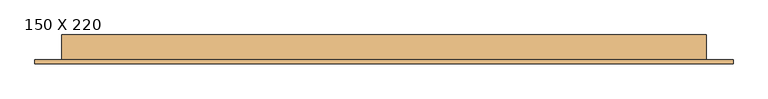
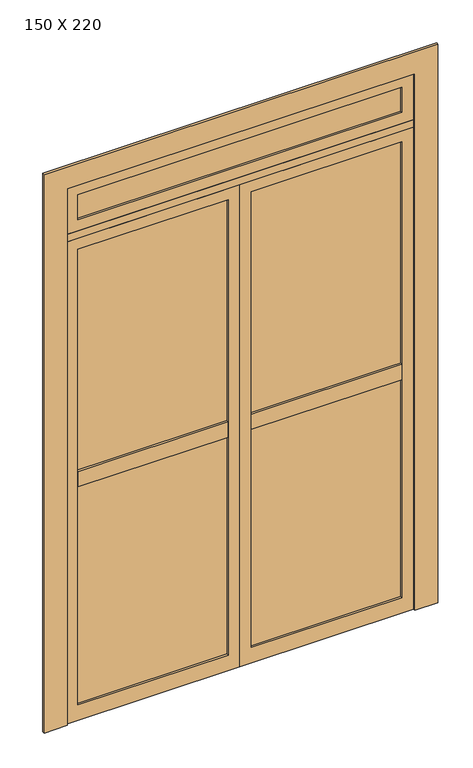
"""IFC4 building model written with IfcOpenShell, lengths in millimetres: door geometry, PORTA DE VIDRO COM ESQUADRIA DE ABRIR - 2 FOLHAS + BANDEIRA FIXA - 1 FOLHA : 150 X 220."""

from ifc_helpers import new_model, si_unit, frame, origin, place, context, project, spatial, polyline, outline, extrude, faceted_brep, source, transform, mapped, element, save


def door_150_x_220_6ddc8072(model_context):
    return source(origin(), model_context, "Body", "SolidModel", [
        extrude(outline(polyline([(730.0, -50.0), (730.0, -75.0), (80.0, -75.0), (80.0, -50.0), (730.0, -50.0)])), frame((0.0, 0.0, 1065.0), z_axis=(0.0, 0.0, 1.0), x_axis=(1.0, 0.0, 0.0)), (0.0, 0.0, 1.0), 70.0),
        extrude(outline(polyline([(80.0, -59.5), (730.0, -59.5), (730.0, -65.5), (80.0, -65.5), (80.0, -59.5)])), frame((0.0, 0.0, 70.0), z_axis=(0.0, 0.0, 1.0), x_axis=(1.0, 0.0, 0.0)), (0.0, 0.0, 1.0), 2080.0),
        extrude(outline(polyline([(2200.0, 30.0), (0.0, 30.0), (0.0, 780.0), (2200.0, 780.0), (2200.0, 30.0)]), holes=[polyline([(2150.0, 80.0), (2150.0, 730.0), (70.0, 730.0), (70.0, 80.0), (2150.0, 80.0)])]), frame((0.0, -75.0, 0.0), z_axis=(0.0, 1.0, 0.0), x_axis=(0.0, 0.0, 1.0)), (0.0, 0.0, 1.0), 25.0),
        extrude(outline(polyline([(730.0, -59.5), (730.0, -65.5), (-670.0, -65.5), (-670.0, -59.5), (730.0, -59.5)])), frame((0.0, 0.0, 2285.0), z_axis=(0.0, 0.0, 1.0), x_axis=(1.0, 0.0, 0.0)), (0.0, 0.0, 1.0), 115.0),
        extrude(outline(polyline([(2450.0, 780.0), (2450.0, -720.0), (2235.0, -720.0), (2235.0, 780.0), (2450.0, 780.0)]), holes=[polyline([(2400.0, 730.0), (2285.0, 730.0), (2285.0, -670.0), (2400.0, -670.0), (2400.0, 730.0)])]), frame((0.0, -75.0, 0.0), z_axis=(0.0, 1.0, 0.0), x_axis=(0.0, 0.0, 1.0)), (0.0, 0.0, 1.0), 25.0),
        extrude(outline(polyline([(-670.0, -50.0), (-20.0, -50.0), (-20.0, -75.0), (-670.0, -75.0), (-670.0, -50.0)])), frame((0.0, 0.0, 1065.0), z_axis=(0.0, 0.0, 1.0), x_axis=(1.0, 0.0, 0.0)), (0.0, 0.0, 1.0), 70.0),
        extrude(outline(polyline([(-20.0, -59.5), (-20.0, -65.5), (-670.0, -65.5), (-670.0, -59.5), (-20.0, -59.5)])), frame((0.0, 0.0, 70.0), z_axis=(0.0, 0.0, 1.0), x_axis=(1.0, 0.0, 0.0)), (0.0, 0.0, 1.0), 2080.0),
        extrude(outline(polyline([(2200.0, 30.0), (2200.0, -720.0), (0.0, -720.0), (0.0, 30.0), (2200.0, 30.0)]), holes=[polyline([(2150.0, -20.0), (70.0, -20.0), (70.0, -670.0), (2150.0, -670.0), (2150.0, -20.0)])]), frame((0.0, -75.0, 0.0), z_axis=(0.0, 1.0, 0.0), x_axis=(0.0, 0.0, 1.0)), (0.0, 0.0, 1.0), 25.0),
        extrude(outline(polyline([(2450.0, -720.0), (2450.0, 780.0), (0.0, 780.0), (0.0, 880.0), (2550.0, 880.0), (2550.0, -820.0), (0.0, -820.0), (0.0, -720.0), (2450.0, -720.0)])), frame((0.0, -85.0, 0.0), z_axis=(0.0, 1.0, 0.0), x_axis=(0.0, 0.0, 1.0)), (0.0, 0.0, 1.0), 10.0),
        faceted_brep([(-755.0, -15.0, 0.0), (-710.0, -15.0, 0.0), (-710.0, -50.0, 0.0), (-720.0, -50.0, 0.0), (-720.0, -75.0, 0.0), (-755.0, -75.0, 0.0), (-755.0, -15.0, 2485.0), (815.0, -15.0, 2485.0), (815.0, -15.0, 0.0), (770.0, -15.0, 0.0), (770.0, -15.0, 2190.0), (-710.0, -15.0, 2190.0), (-720.0, -15.0, 2235.0), (780.0, -15.0, 2235.0), (780.0, -15.0, 2450.0), (-720.0, -15.0, 2450.0), (-710.0, -50.0, 2190.0), (770.0, -50.0, 2190.0), (770.0, -50.0, 0.0), (780.0, -50.0, 0.0), (780.0, -50.0, 2200.0), (-720.0, -50.0, 2200.0), (-720.0, -75.0, 2200.0), (780.0, -75.0, 2200.0), (780.0, -75.0, 0.0), (815.0, -75.0, 0.0), (815.0, -75.0, 2485.0), (-755.0, -75.0, 2485.0), (780.0, -75.0, 2235.0), (-720.0, -75.0, 2235.0), (-720.0, -75.0, 2450.0), (780.0, -75.0, 2450.0)], [[[0, 1, 2, 3, 4, 5]], [[1, 0, 6, 7, 8, 9, 10, 11], [12, 13, 14, 15]], [[2, 1, 11, 16]], [[3, 2, 16, 17, 18, 19, 20, 21]], [[4, 3, 21, 22]], [[5, 4, 22, 23, 24, 25, 26, 27], [28, 29, 30, 31]], [[6, 0, 5, 27]], [[26, 25, 8, 7]], [[9, 8, 25, 24, 19, 18]], [[10, 9, 18, 17]], [[20, 19, 24, 23]], [[31, 14, 13, 28]], [[15, 14, 31, 30]], [[15, 30, 29, 12]], [[7, 6, 27, 26]], [[11, 10, 17, 16]], [[21, 20, 23, 22]], [[13, 12, 29, 28]]]),
    ])


if __name__ == "__main__":
    model = new_model("IFC4")
    model_context = context("Model", 3, world=origin())
    ifc_project = project(units=[si_unit("LENGTHUNIT", "METRE", prefix="MILLI")], contexts=[model_context])
    site = spatial("IfcSite", under=ifc_project)
    building = spatial("IfcBuilding", under=site)
    placement = place(None, origin())
    door_150_x_220_shape = door_150_x_220_6ddc8072(model_context)
    element("IfcDoor", 1, ObjectType="PORTA DE VIDRO COM ESQUADRIA DE ABRIR - 2 FOLHAS + BANDEIRA FIXA - 1 FOLHA : 150 X 220", at=placement, inside=building, context=model_context, shape_type="MappedRepresentation", body=[
        mapped(door_150_x_220_shape, transform((0.0, 0.0, 0.0), x_axis=(1.0, 0.0, 0.0), y_axis=(0.0, 1.0, 0.0), z_axis=(0.0, 0.0, 1.0))),
    ])
    save(model, "model.ifc")
